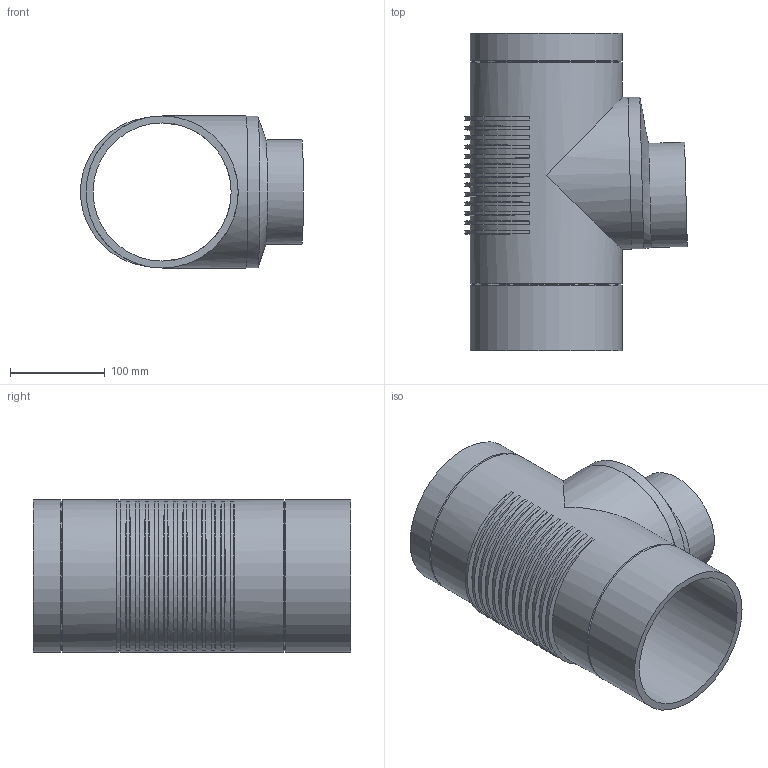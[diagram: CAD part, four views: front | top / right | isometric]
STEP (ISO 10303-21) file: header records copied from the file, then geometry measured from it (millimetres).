
FILE_DESCRIPTION(/* description */ (''),/* implementation_level */ '2;1');
FILE_NAME(/* name */ 'Z:\Geberit\Export\NewStep\315108.stp',/* time_stamp */ '2014-04-01T20:14:45+02:00',/* author */ ('ML'),/* organization */ (''),/* preprocessor_version */ 'ST-DEVELOPER v15.2',/* originating_system */ 'Autodesk Inventor 2014',/* authorisation */ '');
FILE_SCHEMA (('AUTOMOTIVE_DESIGN { 1 0 10303 214 3 1 1 }'));
Length unit declared in the file: millimetre
Products named in the file (3): 862529; 862531; 315108
Bounding box: 234.97 x 335 x 160.47 mm (x, y, z)
Volume: 1338912.8 mm3; surface area: 410515.7 mm2
Topology: 2 solids, 2 shells, 60 faces, 158 edges, 115 vertices
Faces by surface type: cone 30, cylinder 23, plane 5, bspline 2
Full cylindrical faces by diameter (mm): 97.5 x1, 110 x1, 145.3 x1, 145.775 x2, 160 x1, 160.475 x4
Entity records: 2656 total; most frequent: CARTESIAN_POINT 1229, ORIENTED_EDGE 272, DIRECTION 264, EDGE_CURVE 136, AXIS2_PLACEMENT_3D 119, VERTEX_POINT 108, EDGE_LOOP 94, ADVANCED_FACE 60
